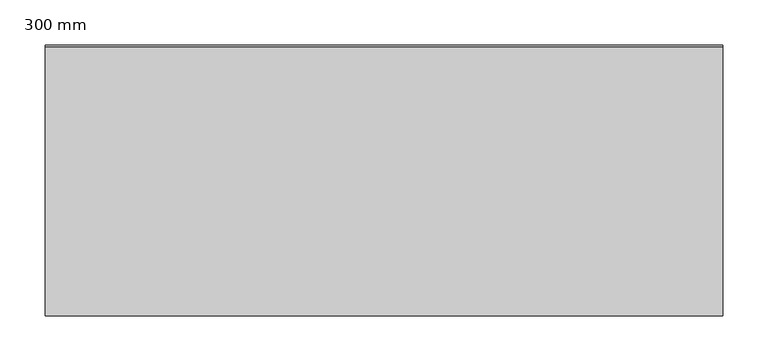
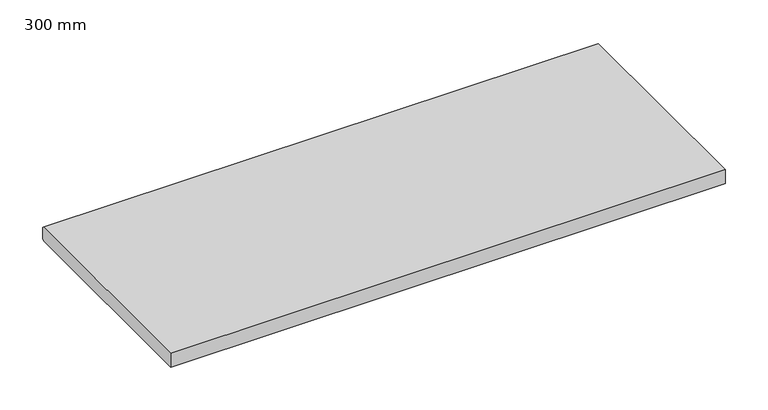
"""IFC4 building model written with IfcOpenShell, lengths in millimetres: proxy geometry, 400_35_NS_vensterbank : 300 mm."""

from ifc_helpers import new_model, si_unit, frame, origin, place, context, project, spatial, polyline, outline, extrude, source, transform, mapped, element, save


def proxy_300_mm_cd6bf833(model_context):
    return source(origin(), model_context, "Body", "SweptSolid", [
        extrude(outline(polyline([(0.0, 0.0), (0.0, 20.0), (298.0, 20.0), (300.0, 18.0), (300.0, 2.0), (298.0, 0.0), (0.0, 0.0)])), frame((-375.0, 0.0, 0.0), z_axis=(1.0, 0.0, 0.0), x_axis=(0.0, 1.0, 0.0)), (0.0, 0.0, 1.0), 750.0),
    ])


if __name__ == "__main__":
    model = new_model("IFC4")
    model_context = context("Model", 3, world=origin())
    ifc_project = project(units=[si_unit("LENGTHUNIT", "METRE", prefix="MILLI")], contexts=[model_context])
    site = spatial("IfcSite", under=ifc_project)
    building = spatial("IfcBuilding", under=site)
    placement = place(None, origin())
    proxy_300_mm_shape = proxy_300_mm_cd6bf833(model_context)
    element("IfcBuildingElementProxy", 1, Name="400_35_NS_vensterbank : 300 mm", ObjectType="400_35_NS_vensterbank : 300 mm", at=placement, inside=building, context=model_context, shape_type="MappedRepresentation", body=[
        mapped(proxy_300_mm_shape, transform((0.0, 0.0, 0.0), x_axis=(1.0, 0.0, 0.0), y_axis=(0.0, 1.0, 0.0), z_axis=(0.0, 0.0, 1.0))),
    ])
    save(model, "model.ifc")
